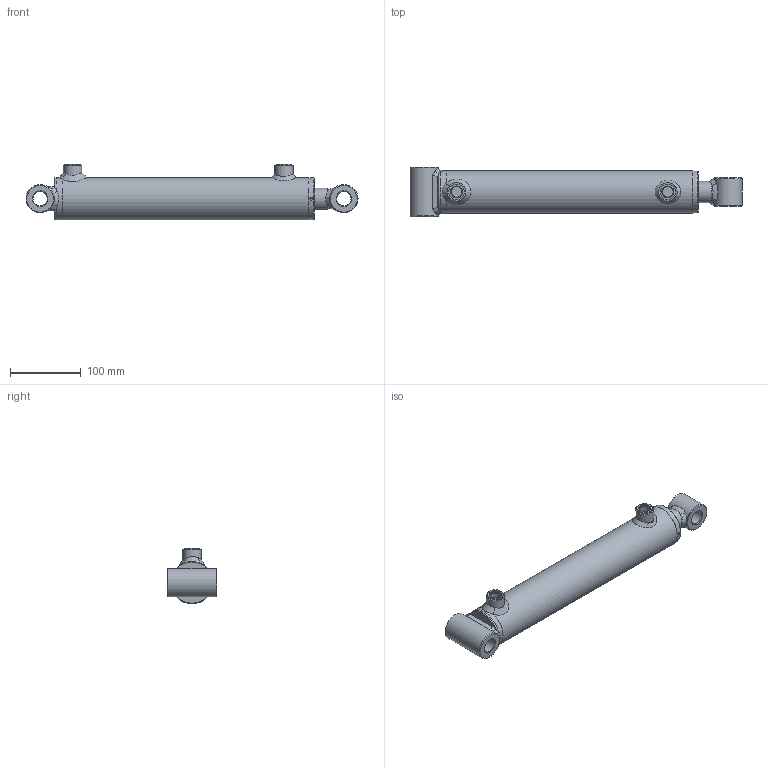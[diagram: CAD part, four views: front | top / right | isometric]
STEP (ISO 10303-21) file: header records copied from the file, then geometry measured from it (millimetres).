
FILE_DESCRIPTION( ( 'Unknown' ), '1' );
FILE_NAME( 'E:/LIBRERIA_3d/CILINDRI/HM2/HM22300250.stp', 'Unknown', ( 'Unknown' ), ( 'Unknown' ), 'PSStep 17.0.49', 'Unknown', ' ' );
FILE_SCHEMA( ( 'AUTOMOTIVE_DESIGN { 1 0 10303 214 1 1 1 1 }' ) );
Length unit declared in the file: millimetre
Products named in the file (26): CT00050020; CG06005030; STL2500250-oa6; Saldatura d'angolo 1-oa4; FTM2500250-oa5; CBSC220600; HM02300250; Saldatura con preparazione 1-oa2; Saldatura d'angolo 1-oa3; CF00050060; CBS0600000; CDA0002015; APG0600000; SBL3020250; Assem1; Saldatura d'angolo 1-oa0; Saldatura d'angolo 2-oa1; CB20040040; CB20040070
Assembly tree (18 placements, depth 4):
  Saldatura d'angolo 1-oa4
  Saldatura d'angolo 1-oa4
  Saldatura d'angolo 1-oa3
  Saldatura d'angolo 1-oa3
  Assem1
    CB20040040
    CB20040070
    HM02300250
      Saldatura con preparazione 1-oa2
      Saldatura con preparazione 1-oa2
      CF00050060
      CBS0600000
      CDA0002015
      APG0600000  x2
      SBL3020250
      CG06005030
        CG06005030
      CT00050020
        CT00050020
      STL2500250-oa6
        FTM2500250-oa5
        CBSC220600
Bounding box: 470 x 70 x 79 mm (x, y, z)
Volume: 804167.6 mm3; surface area: 257543.6 mm2
Topology: 22 solids, 22 shells, 325 faces, 659 edges, 383 vertices
Faces by surface type: bspline 114, plane 74, cylinder 59, cone 40, torus 38
Full cylindrical faces by diameter (mm): 4 x2, 4.25 x1, 5 x2, 7 x2, 14.95 x2, 16 x2, 16.6 x2, 19.4 x1, 20 x5, 20.25 x2, 22 x2, 24.5 x1, 26 x2, 30 x5, 32 x1, 33 x1, 34 x1, 38.6 x1, 40 x3, 45 x1, 45.41 x2, 48.66 x2, 49.9 x1, 50 x1, 50.3 x1, 50.5 x1, 50.6 x1, 51 x1, 52 x3, 52.5 x1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
Entity records: 18862 total; most frequent: CARTESIAN_POINT 11086, ORIENTED_EDGE 924, DIRECTION 850, EDGE_LOOP 494, EDGE_CURVE 462, FACE_OUTER_BOUND 412, AXIS2_PLACEMENT_3D 407, VERTEX_POINT 333
